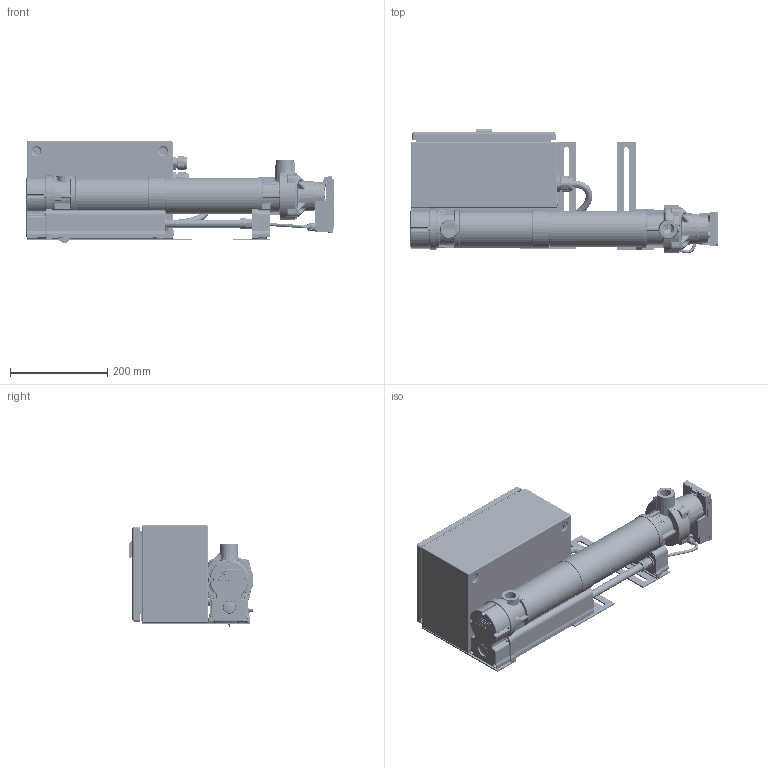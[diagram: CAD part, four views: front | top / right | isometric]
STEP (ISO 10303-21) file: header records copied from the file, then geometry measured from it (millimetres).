
FILE_DESCRIPTION (( 'STEP AP214' ), '1' );
FILE_NAME ('ASS_TOPSTART_4-6KW_WILOYP.STEP', '2014-01-10T07:30:50', ( '' ), ( '' ), 'SwSTEP 2.0', 'SolidWorks 2013', '' );
FILE_SCHEMA (( 'AUTOMOTIVE_DESIGN' ));
Length unit declared in the file: millimetre
Products named in the file (40): BOUCHON; 462615; Vis-Al-6; ASS_TOPSTART_4-6KW_WILOYP; 6; 1597020-C; Pièce_Iso_1; Pièce17; 1597025-R; 3d-stp_WILO-Intec_Motor-MS13-F14-Yonos-Para-RK-WS8; 5; 1597020-B; ip2632-refoidisseur-2012-09-10; PRESSE_16; 1597025-C; Assemblage2; 4; 1597020-A; PETCAP; PLAQUE SUPPORT_2; 1597025-B; BOUCHON_2; 3; PRESSE_20; Bague_Sup; Assemblage_vis; 1597025-A; Vis-Al-4; 2; Vis-Al-6-b; CORPS DE CHAUFFE TOPSTART-4KW GRUNFOS GF3018360rSURFACE_CORPS_LG; CAISSE; 462614; GRCAPCAR; Pièce2^ASS_TOPSTART_4-6KW_WILOYP; 1; PLAQUE SUPPORT; 7; 1597020-R; Pièce_Iso_2
Assembly tree (57 placements, depth 4):
  ASS_TOPSTART_4-6KW_WILOYP
    CORPS DE CHAUFFE TOPSTART-4KW GRUNFOS GF3018360rSURFACE_CORPS_LG
    Bague_Sup
    PETCAP
    ip2632-refoidisseur-2012-09-10
    Pièce_Iso_1
    Pièce_Iso_2
    Assemblage2
      GRCAPCAR
      Vis-Al-4  x5
      BOUCHON_2
    3d-stp_WILO-Intec_Motor-MS13-F14-Yonos-Para-RK-WS8
    Vis-Al-6  x4
    Assemblage_vis
      PLAQUE SUPPORT
      Vis-Al-6-b  x8
      PRESSE_20
      462614
        1597020-A
        1597020-B
        1597020-C
        1597020-R
      462615
        1597025-A
        1597025-B
        1597025-C
        1597025-R
      CAISSE
        1
        2
        3
        4
        5
        6
        7
    PLAQUE SUPPORT_2
    Vis-Al-6-b  x2
    PRESSE_16  x2
    PRESSE_20
    Pièce17
    BOUCHON
    Pièce2^ASS_TOPSTART_4-6KW_WILOYP
Bounding box: 681.64 x 256.81 x 207.86 mm (x, y, z)
Volume: 2072620.6 mm3; surface area: 1694512.9 mm2
Topology: 51 solids, 70 shells, 5989 faces, 15262 edges, 9498 vertices
Faces by surface type: plane 1974, cylinder 1757, bspline 1607, cone 478, torus 123, sphere 50
Entity records: 338374 total; most frequent: CARTESIAN_POINT 197722, ORIENTED_EDGE 28040, DIRECTION 19293, EDGE_CURVE 14052, VERTEX_POINT 8825, AXIS2_PLACEMENT_3D 7103, EDGE_LOOP 5959, FACE_OUTER_BOUND 5533
